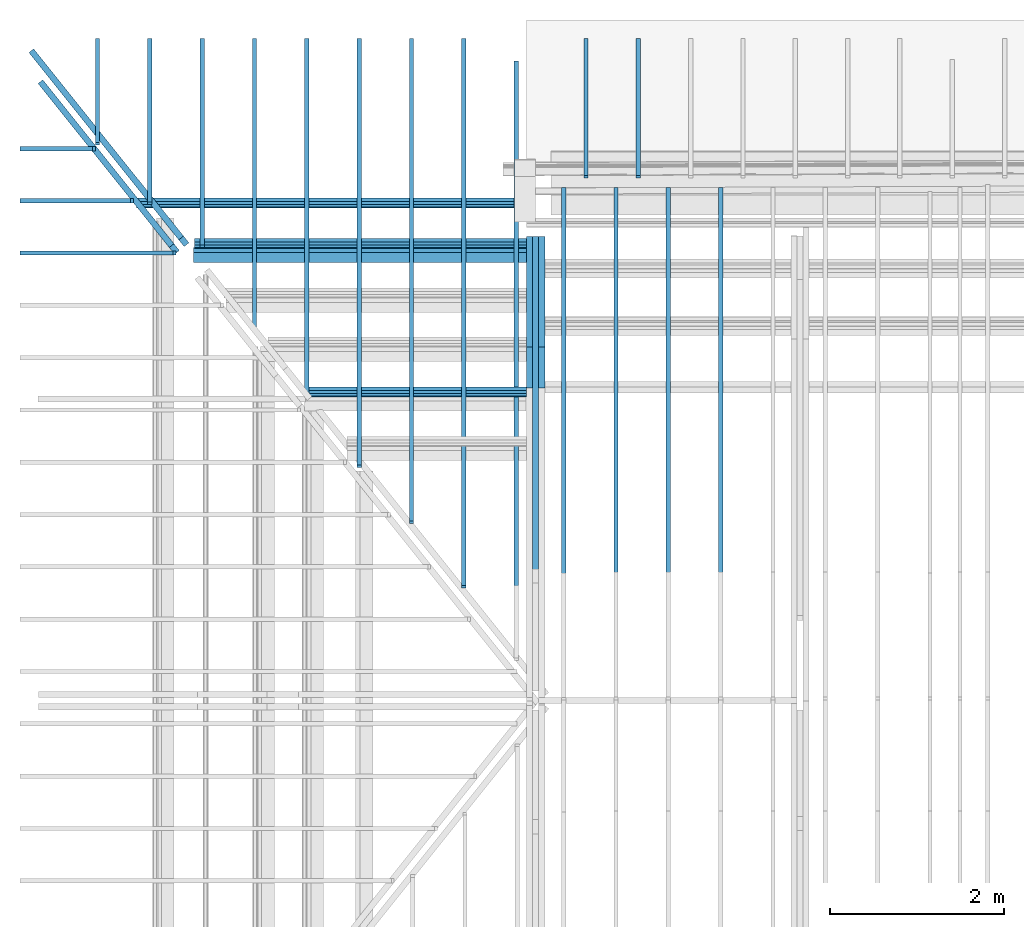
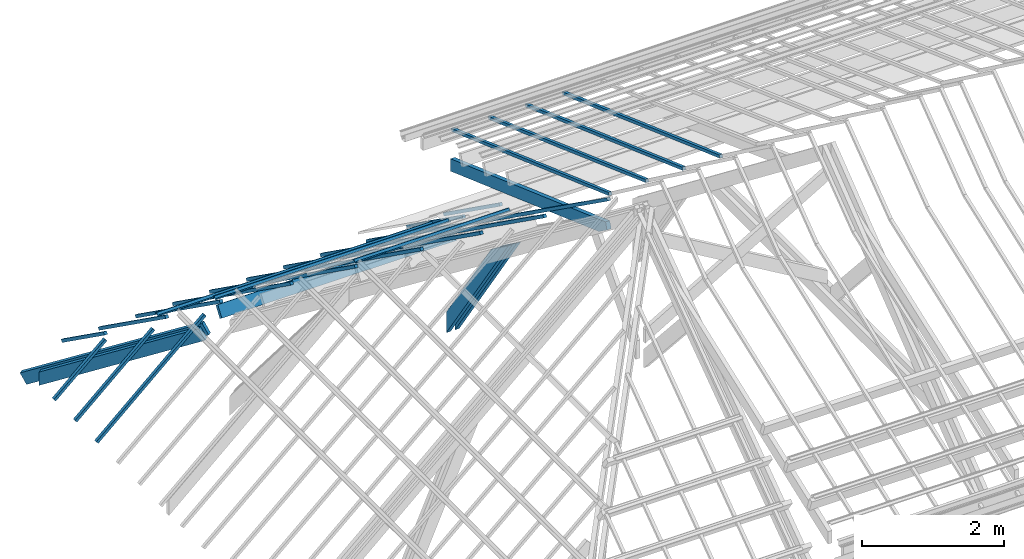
# One storey, part 7 of 18: 27 beams.
"""IFC2X3 building model written with IfcOpenShell, lengths in centimetres."""

from ifc_helpers import new_model, entity, si_unit, converted_unit, direction, frame, frame_2d, origin, origin_2d_with_axis, place, context, subcontext, project, spatial, polyline, circle_curve, parameter, trimmed, segment, composite_curve, rectangle, outline, extrude, clip, halfspace, material, type_object, element, save


model = new_model("IFC2X3")

# Units and contexts
model_context = context("Model", 3, precision=0.001, world=frame((0.0, 0.0, 13090.0)), true_north=direction((6.123233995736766e-17, 1.0)))
body_context = subcontext(model_context, "Body", "Model", "MODEL_VIEW")
ifc_project = project(units=[si_unit("LENGTHUNIT", "METRE", prefix="CENTI"), si_unit("AREAUNIT", "SQUARE_METRE"), si_unit("VOLUMEUNIT", "CUBIC_METRE"), converted_unit("PLANEANGLEUNIT", "DEGREE", entity("IfcPlaneAngleMeasure", 0.017453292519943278), si_unit("PLANEANGLEUNIT", "RADIAN"), dimensions=[0, 0, 0, 0, 0, 0, 0])], contexts=[model_context])

# Site, building, storey
site_placement = place(None, origin())
site = spatial("IfcSite", under=ifc_project, at=site_placement, Name="Default", CompositionType="ELEMENT")
building_placement = place(site_placement, origin())
building = spatial("IfcBuilding", under=site, at=building_placement, Name="e 39 logements et 22 maisons relais", CompositionType="ELEMENT")
storey_placement = place(building_placement, frame((0.0, 0.0, 610.0)))
storey = spatial("IfcBuildingStorey", under=building, at=storey_placement, Name="R+2", CompositionType="ELEMENT", Elevation=609.9999999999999)

# Beams
ifc_material_1 = material(Name="Bois - Bois de construction de dimensions courantes")
beam_type_1 = type_object("IfcBeamType", Name="Poutre - Bois de construction de dimensions courantes:70 200", PredefinedType="BEAM")
beam_1_placement = place(storey_placement, frame((-912.5294746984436, 619.9113580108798, 31.0085594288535), z_axis=(0.0, 0.3368150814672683, 0.9415708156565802), x_axis=(0.0, -0.9415708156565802, 0.3368150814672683)))
element("IfcBeam", 1, at=beam_1_placement, inside=storey, type_object=beam_type_1, material=ifc_material_1, Name="Poutre - Bois de construction de dimensions courantes:70 200", ObjectType="Poutre - Bois de construction de dimensions courantes:70 200", context=body_context, shape_type="Clipping", body=[
    clip(clip(extrude(rectangle(XDim=19.99999999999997, YDim=7.000000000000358, at=frame_2d((-1.6253665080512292e-13, 6.927791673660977e-14), x_axis=(0.0, 1.0))), frame((88.51981701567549, 0.0, -72.0), z_axis=(1.0, 0.0, 0.0), x_axis=(0.0, 1.0, 0.0)), (0.0, 0.0, 1.0), 469.8049506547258), halfspace(frame((390.38157469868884, 692.709732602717, -121.52256185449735), z_axis=(0.2710678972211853, 0.0, -0.9625602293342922), x_axis=(0.0, -1.0, 0.0)), False)), halfspace(frame((108.43711462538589, 692.7097326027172, -23.392228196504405), z_axis=(-0.946818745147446, 0.0, 0.3217674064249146), x_axis=(0.0, -1.0, 0.0)), False)),
])
beam_2_placement = place(storey_placement, frame((-905.5294746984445, 402.20860039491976, -64.2235240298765), z_axis=(1.0, 0.0, 0.0), x_axis=(0.0, -0.5644090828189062, 0.8254952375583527)))
element("IfcBeam", 2, at=beam_2_placement, inside=storey, type_object=beam_type_1, material=ifc_material_1, Name="Poutre - Bois de construction de dimensions courantes:70 200", ObjectType="Poutre - Bois de construction de dimensions courantes:70 200", context=body_context, shape_type="Clipping", body=[
    clip(clip(extrude(rectangle(XDim=20.0, YDim=7.000000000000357, at=frame_2d((-5.417888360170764e-14, 0.0), x_axis=(0.0, 1.0))), frame((-247.9649671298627, 30.0, 0.0), z_axis=(1.0, 0.0, 0.0), x_axis=(0.0, 0.0, -1.0)), (0.0, 0.0, 1.0), 307.99611149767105), halfspace(frame((-267.81505385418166, 53.57193685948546, -628.0494014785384), z_axis=(-0.5644090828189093, -0.8254952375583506, 0.0), x_axis=(0.0, 0.0, 1.0)), False)), halfspace(frame((165.38290847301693, 78.57563742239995, 628.0494014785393), z_axis=(0.34383550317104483, -0.9390298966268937, 0.0), x_axis=(0.0, 0.0, -1.0)), False)),
])
beam_3_placement = place(storey_placement, frame((-919.5294746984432, 402.20860039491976, -64.2235240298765), z_axis=(1.0, 0.0, 0.0), x_axis=(0.0, -0.5644090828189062, 0.8254952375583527)))
element("IfcBeam", 3, at=beam_3_placement, inside=storey, type_object=beam_type_1, material=ifc_material_1, Name="Poutre - Bois de construction de dimensions courantes:70 200", ObjectType="Poutre - Bois de construction de dimensions courantes:70 200", context=body_context, shape_type="Clipping", body=[
    clip(clip(extrude(rectangle(XDim=20.00000000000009, YDim=7.000000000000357, at=frame_2d((-5.417888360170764e-14, -6.039613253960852e-14), x_axis=(0.0, 1.0))), frame((-247.96496712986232, 30.0, 0.0), z_axis=(1.0, 0.0, 0.0), x_axis=(0.0, 0.0, -1.0)), (0.0, 0.0, 1.0), 307.9961114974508), halfspace(frame((-267.8150538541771, 53.571936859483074, -628.0494014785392), z_axis=(-0.5644090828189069, -0.8254952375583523, 0.0), x_axis=(0.0, 0.0, 1.0)), False)), halfspace(frame((165.38290847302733, 78.57563742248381, 628.0494014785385), z_axis=(0.3438355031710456, -0.9390298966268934, 0.0), x_axis=(0.0, 0.0, -1.0)), False)),
])
beam_4_placement = place(storey_placement, frame((-570.9302602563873, 493.8513256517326, -100.52820088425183), z_axis=(0.0, 0.0, 1.0), x_axis=(-1.0, 0.0, 0.0)))
element("IfcBeam", 4, at=beam_4_placement, inside=storey, type_object=beam_type_1, material=ifc_material_1, Name="Poutre - Bois de construction de dimensions courantes:70 200", ObjectType="Poutre - Bois de construction de dimensions courantes:70 200", context=body_context, shape_type="SweptSolid", body=[
    extrude(rectangle(XDim=19.999999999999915, YDim=7.000000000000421, at=frame_2d((6.039613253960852e-14, -8.659739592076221e-15), x_axis=(1.0, 0.0))), frame((352.09921444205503, 5.735764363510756, -8.191520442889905), z_axis=(1.0, 0.0, 0.0), x_axis=(0.0, -0.5735764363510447, 0.8191520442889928)), (0.0, 0.0, 1.0), 381.61947871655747),
])
beam_5_placement = place(storey_placement, frame((-1417.0565138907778, 607.7089887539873, -118.13387969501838), z_axis=(-0.30661229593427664, 0.383119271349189, 0.8713257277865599), x_axis=(0.5444394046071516, -0.680289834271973, 0.49070508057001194)))
element("IfcBeam", 5, at=beam_5_placement, inside=storey, type_object=beam_type_1, material=ifc_material_1, Name="Poutre - Bois de construction de dimensions courantes:70 200", ObjectType="Poutre - Bois de construction de dimensions courantes:70 200", context=body_context, shape_type="Clipping", body=[
    clip(extrude(rectangle(XDim=19.999999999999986, YDim=7.000000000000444, at=frame_2d((-5.950795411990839e-14, -1.1790568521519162e-13), x_axis=(1.0, 0.0))), frame((-173.65205872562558, 0.0, -92.0), z_axis=(1.0, 0.0, 0.0), x_axis=(0.0, 0.0, -1.0)), (0.0, 0.0, 1.0), 287.55314818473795), halfspace(frame((-130.7876422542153, 297.3510892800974, -25.109907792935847), z_axis=(-0.8734440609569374, 0.0, 0.4869245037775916), x_axis=(0.0, -1.0, 0.0)), False)),
])
beam_6_placement = place(storey_placement, frame((-1406.1259773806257, 616.4567525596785, -118.13387969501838), z_axis=(-0.3066122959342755, 0.3831192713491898, 0.8713257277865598), x_axis=(0.5444394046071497, -0.6802898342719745, 0.49070508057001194)))
element("IfcBeam", 6, at=beam_6_placement, inside=storey, type_object=beam_type_1, material=ifc_material_1, Name="Poutre - Bois de construction de dimensions courantes:70 200", ObjectType="Poutre - Bois de construction de dimensions courantes:70 200", context=body_context, shape_type="SweptSolid", body=[
    extrude(rectangle(XDim=20.000000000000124, YDim=7.000000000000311, at=frame_2d((-5.595524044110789e-14, -8.459899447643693e-14), x_axis=(1.0, 0.0))), frame((-201.77810725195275, 0.0, -92.0), z_axis=(1.0, 0.0, 0.0), x_axis=(0.0, 0.0, -1.0)), (0.0, 0.0, 1.0), 315.67919671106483),
])
ifc_material_2 = material(Name="neuf")
beam_type_2 = type_object("IfcBeamType", Name="panne z:panne z", PredefinedType="BEAM")
beam_7_placement = place(storey_placement, frame((-570.9302602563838, 332.5361445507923, 30.03878129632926), z_axis=(0.0, 0.0, 1.0), x_axis=(-1.0, 0.0, 0.0)))
element("IfcBeam", 7, at=beam_7_placement, inside=storey, type_object=beam_type_2, material=ifc_material_2, Name="panne z:panne z", ObjectType="panne z:panne z", context=body_context, shape_type="SweptSolid", body=[
    extrude(outline(composite_curve([segment(trimmed(circle_curve(frame_2d((-0.30000000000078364, 2.599999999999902), x_axis=(1.0, 0.0)), 0.3999999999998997), [parameter(0.0)], [parameter(90.00000000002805)], True, "PARAMETER"), True, "CONTINUOUS"), segment(polyline([(-0.30000000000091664, 3.0), (-4.6000000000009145, 3.0)]), True, "CONTINUOUS"), segment(trimmed(circle_curve(frame_2d((-4.600000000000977, 2.599999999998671), x_axis=(0.0, 1.0)), 0.39999999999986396), [parameter(0.0)], [parameter(90.00000000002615)], True, "PARAMETER"), True, "CONTINUOUS"), segment(polyline([(-5.0, 2.59999999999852), (-5.0, 1.0)]), True, "CONTINUOUS"), segment(polyline([(-5.0, 1.0), (-4.800000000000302, 1.0)]), True, "CONTINUOUS"), segment(polyline([(-4.8000000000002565, 1.0), (-4.800000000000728, 2.5999999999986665)]), True, "CONTINUOUS"), segment(trimmed(circle_curve(frame_2d((-4.600000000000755, 2.5999999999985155), x_axis=(-1.0, 0.0)), 0.20000000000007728), [parameter(270.00000000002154)], [parameter(0.0)], True, "PARAMETER"), False, "CONTINUOUS"), segment(polyline([(-4.600000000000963, 2.7999999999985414), (-0.3000000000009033, 2.7999999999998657)]), True, "CONTINUOUS"), segment(trimmed(circle_curve(frame_2d((-0.3000000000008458, 2.599999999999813), x_axis=(0.0, 1.0)), 0.2000000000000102), [parameter(270.00000000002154)], [parameter(0.0)], True, "PARAMETER"), False, "CONTINUOUS"), segment(polyline([(-0.10000000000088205, 2.5999999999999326), (-0.09999999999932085, -2.6000000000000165)]), True, "CONTINUOUS"), segment(trimmed(circle_curve(frame_2d((0.30000000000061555, -2.600000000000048), x_axis=(-1.0, 0.0)), 0.3999999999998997), [parameter(0.0)], [parameter(90.00000000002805)], True, "PARAMETER"), True, "CONTINUOUS"), segment(polyline([(0.30000000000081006, -3.0), (4.60000000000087, -3.0)]), True, "CONTINUOUS"), segment(trimmed(circle_curve(frame_2d((4.600000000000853, -2.599999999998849), x_axis=(0.0, -1.0)), 0.39999999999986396), [parameter(0.0)], [parameter(90.00000000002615)], True, "PARAMETER"), True, "CONTINUOUS"), segment(polyline([(5.0, -2.599999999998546), (5.0, -1.0)]), True, "CONTINUOUS"), segment(polyline([(5.0, -1.0), (4.800000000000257, -1.0)]), True, "CONTINUOUS"), segment(polyline([(4.800000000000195, -1.0), (4.800000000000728, -2.5999999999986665)]), True, "CONTINUOUS"), segment(trimmed(circle_curve(frame_2d((4.60000000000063, -2.5999999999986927), x_axis=(1.0, 0.0)), 0.20000000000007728), [parameter(270.00000000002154)], [parameter(0.0)], True, "PARAMETER"), False, "CONTINUOUS"), segment(polyline([(4.6000000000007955, -2.7999999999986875), (0.30000000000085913, -2.7999999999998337)]), True, "CONTINUOUS"), segment(trimmed(circle_curve(frame_2d((0.3000000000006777, -2.5999999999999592), x_axis=(0.0, -1.0)), 0.2000000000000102), [parameter(270.00000000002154)], [parameter(0.0)], True, "PARAMETER"), False, "CONTINUOUS"), segment(polyline([(0.1000000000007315, -2.599999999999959), (0.09999999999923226, 2.6000000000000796)]), True, "CONTINUOUS")], self_intersect=False)), frame((352.0992144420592, 1.5385808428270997, -2.1973211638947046), z_axis=(1.0, 0.0, 0.0), x_axis=(0.0, 0.8191520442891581, 0.5735764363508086)), (0.0, 0.0, 1.0), 251.85249584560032),
])
beam_8_placement = place(storey_placement, frame((-570.9302602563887, 502.96615289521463, -91.45077795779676), z_axis=(0.0, 0.0, 1.0), x_axis=(-1.0, 0.0, 0.0)))
element("IfcBeam", 8, at=beam_8_placement, inside=storey, type_object=beam_type_2, material=ifc_material_2, Name="panne z:panne z", ObjectType="panne z:panne z", context=body_context, shape_type="SweptSolid", body=[
    extrude(outline(composite_curve([segment(trimmed(circle_curve(frame_2d((-0.3000000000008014, 2.599999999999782), x_axis=(1.0, 0.0)), 0.39999999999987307), [parameter(0.0)], [parameter(90.00000000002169)], True, "PARAMETER"), True, "CONTINUOUS"), segment(polyline([(-0.30000000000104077, 3.0), (-4.600000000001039, 3.0)]), True, "CONTINUOUS"), segment(trimmed(circle_curve(frame_2d((-4.60000000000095, 2.5999999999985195), x_axis=(0.0, 1.0)), 0.399999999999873), [parameter(0.0)], [parameter(90.00000000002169)], True, "PARAMETER"), True, "CONTINUOUS"), segment(polyline([(-5.0, 2.599999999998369), (-5.0, 1.0)]), True, "CONTINUOUS"), segment(polyline([(-5.0, 1.0), (-4.800000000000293, 1.0)]), True, "CONTINUOUS"), segment(polyline([(-4.800000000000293, 1.0), (-4.800000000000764, 2.5999999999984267)]), True, "CONTINUOUS"), segment(trimmed(circle_curve(frame_2d((-4.600000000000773, 2.599999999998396), x_axis=(-1.0, 0.0)), 0.20000000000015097), [parameter(270.0000000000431)], [parameter(0.0)], True, "PARAMETER"), False, "CONTINUOUS"), segment(polyline([(-4.600000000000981, 2.7999999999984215), (-0.30000000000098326, 2.799999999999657)]), True, "CONTINUOUS"), segment(trimmed(circle_curve(frame_2d((-0.30000000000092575, 2.5999999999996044), x_axis=(0.0, 1.0)), 0.20000000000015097), [parameter(270.0000000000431)], [parameter(0.0)], True, "PARAMETER"), False, "CONTINUOUS"), segment(polyline([(-0.10000000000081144, 2.599999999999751), (-0.09999999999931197, -2.6000000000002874)]), True, "CONTINUOUS"), segment(trimmed(circle_curve(frame_2d((0.30000000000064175, -2.6000000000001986), x_axis=(-1.0, 0.0)), 0.39999999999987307), [parameter(0.0)], [parameter(90.00000000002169)], True, "PARAMETER"), True, "CONTINUOUS"), segment(polyline([(0.3000000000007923, -3.0), (4.600000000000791, -3.0)]), True, "CONTINUOUS"), segment(trimmed(circle_curve(frame_2d((4.600000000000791, -2.5999999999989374), x_axis=(0.0, -1.0)), 0.399999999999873), [parameter(0.0)], [parameter(90.00000000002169)], True, "PARAMETER"), True, "CONTINUOUS"), segment(polyline([(5.0, -2.5999999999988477), (5.0, -1.0)]), True, "CONTINUOUS"), segment(polyline([(5.0, -1.0), (4.800000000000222, -1.0)]), True, "CONTINUOUS"), segment(polyline([(4.800000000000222, -1.0), (4.800000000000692, -2.599999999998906)]), True, "CONTINUOUS"), segment(trimmed(circle_curve(frame_2d((4.600000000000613, -2.599999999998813), x_axis=(1.0, 0.0)), 0.20000000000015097), [parameter(270.0000000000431)], [parameter(0.0)], True, "PARAMETER"), False, "CONTINUOUS"), segment(polyline([(4.600000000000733, -2.7999999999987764), (0.3000000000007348, -2.8000000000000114)]), True, "CONTINUOUS"), segment(trimmed(circle_curve(frame_2d((0.3000000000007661, -2.600000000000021), x_axis=(0.0, -1.0)), 0.20000000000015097), [parameter(270.0000000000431)], [parameter(0.0)], True, "PARAMETER"), False, "CONTINUOUS"), segment(polyline([(0.10000000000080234, -2.600000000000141), (0.09999999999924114, 2.5999999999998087)]), True, "CONTINUOUS")], self_intersect=False)), frame((352.0992144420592, 1.5385808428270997, -2.197321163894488), z_axis=(1.0, 0.0, 0.0), x_axis=(0.0, 0.8191520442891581, 0.5735764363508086)), (0.0, 0.0, 1.0), 380.3875831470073),
])
beam_9_placement = place(storey_placement, frame((-570.9302602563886, 549.1363854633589, -124.36282942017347), z_axis=(0.0, 0.0, 1.0), x_axis=(-1.0, 0.0, 0.0)))
element("IfcBeam", 9, at=beam_9_placement, inside=storey, type_object=beam_type_2, material=ifc_material_2, Name="panne z:panne z", ObjectType="panne z:panne z", context=body_context, shape_type="SweptSolid", body=[
    extrude(outline(composite_curve([segment(trimmed(circle_curve(frame_2d((-0.3000000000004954, 2.6000000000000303), x_axis=(1.0, 0.0)), 0.399999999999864), [parameter(0.0)], [parameter(90.00000000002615)], True, "PARAMETER"), True, "CONTINUOUS"), segment(polyline([(-0.3000000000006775, 3.0), (-4.6000000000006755, 3.0)]), True, "CONTINUOUS"), segment(trimmed(circle_curve(frame_2d((-4.600000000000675, 2.5999999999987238), x_axis=(0.0, 1.0)), 0.3999999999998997), [parameter(0.0)], [parameter(90.00000000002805)], True, "PARAMETER"), True, "CONTINUOUS"), segment(polyline([(-5.0, 2.599999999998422), (-5.0, 1.0)]), True, "CONTINUOUS"), segment(polyline([(-5.0, 1.0), (-4.799999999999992, 1.0)]), True, "CONTINUOUS"), segment(polyline([(-4.799999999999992, 1.0), (-4.800000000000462, 2.59999999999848)]), True, "CONTINUOUS"), segment(trimmed(circle_curve(frame_2d((-4.600000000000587, 2.5999999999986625), x_axis=(-1.0, 0.0)), 0.20000000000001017), [parameter(270.00000000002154)], [parameter(0.0)], True, "PARAMETER"), False, "CONTINUOUS"), segment(polyline([(-4.600000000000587, 2.7999999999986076), (-0.30000000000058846, 2.799999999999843)]), True, "CONTINUOUS"), segment(trimmed(circle_curve(frame_2d((-0.30000000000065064, 2.5999999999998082), x_axis=(0.0, 1.0)), 0.20000000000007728), [parameter(270.00000000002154)], [parameter(0.0)], True, "PARAMETER"), False, "CONTINUOUS"), segment(polyline([(-0.10000000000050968, 2.599999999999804), (-0.09999999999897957, -2.60000000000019)]), True, "CONTINUOUS"), segment(trimmed(circle_curve(frame_2d((0.3000000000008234, -2.600000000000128), x_axis=(-1.0, 0.0)), 0.399999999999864), [parameter(0.0)], [parameter(90.00000000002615)], True, "PARAMETER"), True, "CONTINUOUS"), segment(polyline([(0.3000000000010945, -3.0), (4.600000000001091, -3.0)]), True, "CONTINUOUS"), segment(trimmed(circle_curve(frame_2d((4.600000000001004, -2.599999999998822), x_axis=(0.0, -1.0)), 0.3999999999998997), [parameter(0.0)], [parameter(90.00000000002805)], True, "PARAMETER"), True, "CONTINUOUS"), segment(polyline([(5.0, -2.5999999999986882), (5.0, -1.0)]), True, "CONTINUOUS"), segment(polyline([(5.0, -1.0), (4.800000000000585, -1.0)]), True, "CONTINUOUS"), segment(polyline([(4.800000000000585, -1.0), (4.800000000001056, -2.599999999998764)]), True, "CONTINUOUS"), segment(trimmed(circle_curve(frame_2d((4.600000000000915, -2.5999999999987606), x_axis=(1.0, 0.0)), 0.20000000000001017), [parameter(270.00000000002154)], [parameter(0.0)], True, "PARAMETER"), False, "CONTINUOUS"), segment(polyline([(4.600000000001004, -2.7999999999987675), (0.30000000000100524, -2.8000000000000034)]), True, "CONTINUOUS"), segment(trimmed(circle_curve(frame_2d((0.3000000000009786, -2.599999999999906), x_axis=(0.0, -1.0)), 0.20000000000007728), [parameter(270.00000000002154)], [parameter(0.0)], True, "PARAMETER"), False, "CONTINUOUS"), segment(polyline([(0.1000000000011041, -2.600000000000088), (0.09999999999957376, 2.599999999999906)]), True, "CONTINUOUS")], self_intersect=False)), frame((352.0992144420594, 1.5385808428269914, -2.197321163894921), z_axis=(1.0, 0.0, 0.0), x_axis=(0.0, 0.8191520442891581, 0.5735764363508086)), (0.0, 0.0, 1.0), 447.40959199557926),
])
beam_type_3 = type_object("IfcBeamType", Name="Poutre - Bois de construction de dimensions courantes:50 50", PredefinedType="BEAM")
beam_10_placement = place(storey_placement, frame((-700.3172162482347, 636.363931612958, 59.23829359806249), z_axis=(0.0, 0.33913930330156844, 0.9407361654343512), x_axis=(0.0, -0.9407361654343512, 0.33913930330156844)))
element("IfcBeam", 10, at=beam_10_placement, inside=storey, type_object=beam_type_3, material=ifc_material_1, Name="Poutre - Bois de construction de dimensions courantes:50 50", ObjectType="Poutre - Bois de construction de dimensions courantes:50 50", context=body_context, shape_type="SweptSolid", body=[
    extrude(rectangle(XDim=4.999999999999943, YDim=5.000000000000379, at=frame_2d((5.129230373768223e-14, 5.417888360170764e-14), x_axis=(1.0, 0.0))), frame((50.61646000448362, 0.0, -71.5000000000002), z_axis=(1.0, 0.0, 0.0), x_axis=(0.0, 0.0, -1.0)), (0.0, 0.0, 1.0), 470.3229988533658),
])
beam_11_placement = place(storey_placement, frame((-760.3172162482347, 636.3639316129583, 59.23829359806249), z_axis=(0.0, 0.33913930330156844, 0.9407361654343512), x_axis=(0.0, -0.9407361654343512, 0.33913930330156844)))
element("IfcBeam", 11, at=beam_11_placement, inside=storey, type_object=beam_type_3, material=ifc_material_1, Name="Poutre - Bois de construction de dimensions courantes:50 50", ObjectType="Poutre - Bois de construction de dimensions courantes:50 50", context=body_context, shape_type="SweptSolid", body=[
    extrude(rectangle(XDim=4.999999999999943, YDim=5.000000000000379, at=frame_2d((5.129230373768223e-14, -5.417888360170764e-14), x_axis=(1.0, 0.0))), frame((50.61646000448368, 0.0, -71.5000000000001), z_axis=(1.0, 0.0, 0.0), x_axis=(0.0, 0.0, -1.0)), (0.0, 0.0, 1.0), 470.3229988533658),
])
beam_12_placement = place(storey_placement, frame((-820.3172162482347, 636.3639316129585, 59.23829359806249), z_axis=(0.0, 0.33913930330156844, 0.9407361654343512), x_axis=(0.0, -0.9407361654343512, 0.33913930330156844)))
element("IfcBeam", 12, at=beam_12_placement, inside=storey, type_object=beam_type_3, material=ifc_material_1, Name="Poutre - Bois de construction de dimensions courantes:50 50", ObjectType="Poutre - Bois de construction de dimensions courantes:50 50", context=body_context, shape_type="SweptSolid", body=[
    extrude(rectangle(XDim=4.999999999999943, YDim=5.000000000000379, at=frame_2d((5.129230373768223e-14, 5.417888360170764e-14), x_axis=(1.0, 0.0))), frame((50.61646000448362, 0.0, -71.49999999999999), z_axis=(1.0, 0.0, 0.0), x_axis=(0.0, 0.0, -1.0)), (0.0, 0.0, 1.0), 470.3229988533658),
])
beam_13_placement = place(storey_placement, frame((-880.3172162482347, 636.2309183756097, 59.43623293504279), z_axis=(0.0, 0.336480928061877, 0.9416902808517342), x_axis=(0.0, -0.9416902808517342, 0.336480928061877)))
element("IfcBeam", 13, at=beam_13_placement, inside=storey, type_object=beam_type_3, material=ifc_material_1, Name="Poutre - Bois de construction de dimensions courantes:50 50", ObjectType="Poutre - Bois de construction de dimensions courantes:50 50", context=body_context, shape_type="SweptSolid", body=[
    extrude(rectangle(XDim=4.99999999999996, YDim=5.000000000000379, at=frame_2d((0.0, -5.417888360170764e-14), x_axis=(1.0, 0.0))), frame((50.61646000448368, 0.0, -71.5000000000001), z_axis=(1.0, 0.0, 0.0), x_axis=(0.0, 0.0, -1.0)), (0.0, 0.0, 1.0), 470.3229988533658),
])
beam_14_placement = place(storey_placement, frame((-994.8819705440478, 595.7154312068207, -82.26436383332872), z_axis=(0.0, 0.5804591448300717, 0.814289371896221), x_axis=(0.0, -0.814289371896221, 0.5804591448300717)))
element("IfcBeam", 14, at=beam_14_placement, inside=storey, type_object=beam_type_3, material=ifc_material_1, Name="Poutre - Bois de construction de dimensions courantes:50 50", ObjectType="Poutre - Bois de construction de dimensions courantes:50 50", context=body_context, shape_type="SweptSolid", body=[
    extrude(rectangle(XDim=4.999999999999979, YDim=5.000000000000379, at=frame_2d((-2.19824158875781e-14, 0.0), x_axis=(1.0, 0.0))), frame((-222.18364305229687, 0.0, -71.50000000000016), z_axis=(1.0, 0.0, 0.0), x_axis=(0.0, 0.0, -1.0)), (0.0, 0.0, 1.0), 770.7267689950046),
])
beam_15_placement = place(storey_placement, frame((-1054.8819705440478, 595.7154312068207, -82.26436383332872), z_axis=(0.0, 0.5804591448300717, 0.814289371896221), x_axis=(0.0, -0.814289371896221, 0.5804591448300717)))
element("IfcBeam", 15, at=beam_15_placement, inside=storey, type_object=beam_type_3, material=ifc_material_1, Name="Poutre - Bois de construction de dimensions courantes:50 50", ObjectType="Poutre - Bois de construction de dimensions courantes:50 50", context=body_context, shape_type="SweptSolid", body=[
    extrude(rectangle(XDim=5.000000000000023, YDim=5.000000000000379, at=frame_2d((0.0, 1.0835776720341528e-13), x_axis=(1.0, 0.0))), frame((-222.1836430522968, 0.0, -71.50000000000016), z_axis=(1.0, 0.0, 0.0), x_axis=(0.0, 0.0, -1.0)), (0.0, 0.0, 1.0), 679.7802642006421),
])
beam_16_placement = place(storey_placement, frame((-1114.8819705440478, 595.7154312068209, -82.26436383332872), z_axis=(0.0, 0.5804591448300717, 0.814289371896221), x_axis=(0.0, -0.814289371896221, 0.5804591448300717)))
element("IfcBeam", 16, at=beam_16_placement, inside=storey, type_object=beam_type_3, material=ifc_material_1, Name="Poutre - Bois de construction de dimensions courantes:50 50", ObjectType="Poutre - Bois de construction de dimensions courantes:50 50", context=body_context, shape_type="SweptSolid", body=[
    extrude(rectangle(XDim=5.000000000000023, YDim=5.000000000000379, at=frame_2d((0.0, 2.1649348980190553e-13), x_axis=(1.0, 0.0))), frame((-222.18364305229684, 0.0, -71.50000000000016), z_axis=(1.0, 0.0, 0.0), x_axis=(0.0, 0.0, -1.0)), (0.0, 0.0, 1.0), 600.9751981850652),
])
beam_17_placement = place(storey_placement, frame((-1174.8819705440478, 595.715431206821, -82.26436383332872), z_axis=(0.0, 0.5804591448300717, 0.814289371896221), x_axis=(0.0, -0.814289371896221, 0.5804591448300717)))
element("IfcBeam", 17, at=beam_17_placement, inside=storey, type_object=beam_type_3, material=ifc_material_1, Name="Poutre - Bois de construction de dimensions courantes:50 50", ObjectType="Poutre - Bois de construction de dimensions courantes:50 50", context=body_context, shape_type="SweptSolid", body=[
    extrude(rectangle(XDim=4.999999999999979, YDim=5.000000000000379, at=frame_2d((2.19824158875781e-14, 1.0835776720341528e-13), x_axis=(1.0, 0.0))), frame((-222.18364305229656, 0.0, -71.50000000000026), z_axis=(1.0, 0.0, 0.0), x_axis=(0.0, 0.0, -1.0)), (0.0, 0.0, 1.0), 501.9262439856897),
])
beam_18_placement = place(storey_placement, frame((-1234.8819705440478, 595.715431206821, -82.26436383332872), z_axis=(0.0, 0.5804591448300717, 0.814289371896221), x_axis=(0.0, -0.814289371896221, 0.5804591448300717)))
element("IfcBeam", 18, at=beam_18_placement, inside=storey, type_object=beam_type_3, material=ifc_material_1, Name="Poutre - Bois de construction de dimensions courantes:50 50", ObjectType="Poutre - Bois de construction de dimensions courantes:50 50", context=body_context, shape_type="SweptSolid", body=[
    extrude(rectangle(XDim=5.000000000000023, YDim=5.0000000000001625, at=origin_2d_with_axis()), frame((-222.18364305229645, 0.0, -71.50000000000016), z_axis=(1.0, 0.0, 0.0), x_axis=(0.0, 0.0, -1.0)), (0.0, 0.0, 1.0), 406.790329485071),
])
beam_19_placement = place(storey_placement, frame((-1294.8819705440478, 595.7154312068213, -82.26436383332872), z_axis=(0.0, 0.5804591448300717, 0.814289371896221), x_axis=(0.0, -0.814289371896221, 0.5804591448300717)))
element("IfcBeam", 19, at=beam_19_placement, inside=storey, type_object=beam_type_3, material=ifc_material_1, Name="Poutre - Bois de construction de dimensions courantes:50 50", ObjectType="Poutre - Bois de construction de dimensions courantes:50 50", context=body_context, shape_type="SweptSolid", body=[
    extrude(rectangle(XDim=5.000000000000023, YDim=5.000000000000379, at=frame_2d((0.0, 3.248512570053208e-13), x_axis=(1.0, 0.0))), frame((-222.18364305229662, 0.0, -71.5000000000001), z_axis=(1.0, 0.0, 0.0), x_axis=(0.0, 0.0, -1.0)), (0.0, 0.0, 1.0), 291.0265436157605),
])
beam_20_placement = place(storey_placement, frame((-1354.8819705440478, 595.7154312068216, -82.26436383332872), z_axis=(0.0, 0.5804591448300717, 0.814289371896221), x_axis=(0.0, -0.814289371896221, 0.5804591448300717)))
element("IfcBeam", 20, at=beam_20_placement, inside=storey, type_object=beam_type_3, material=ifc_material_1, Name="Poutre - Bois de construction de dimensions courantes:50 50", ObjectType="Poutre - Bois de construction de dimensions courantes:50 50", context=body_context, shape_type="SweptSolid", body=[
    extrude(rectangle(XDim=4.999999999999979, YDim=5.0000000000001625, at=frame_2d((0.0, 2.1671553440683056e-13), x_axis=(1.0, 0.0))), frame((-222.18364305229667, 0.0, -71.5000000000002), z_axis=(1.0, 0.0, 0.0), x_axis=(0.0, 0.0, -1.0)), (0.0, 0.0, 1.0), 230.6593541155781),
])
beam_21_placement = place(storey_placement, frame((-1414.8819705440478, 595.7154312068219, -82.26436383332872), z_axis=(0.0, 0.5804591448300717, 0.814289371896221), x_axis=(0.0, -0.814289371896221, 0.5804591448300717)))
element("IfcBeam", 21, at=beam_21_placement, inside=storey, type_object=beam_type_3, material=ifc_material_1, Name="Poutre - Bois de construction de dimensions courantes:50 50", ObjectType="Poutre - Bois de construction de dimensions courantes:50 50", context=body_context, shape_type="SweptSolid", body=[
    extrude(rectangle(XDim=5.000000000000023, YDim=5.000000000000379, at=frame_2d((0.0, 1.0835776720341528e-13), x_axis=(1.0, 0.0))), frame((-222.18364305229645, 0.0, -71.5000000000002), z_axis=(1.0, 0.0, 0.0), x_axis=(0.0, 0.0, -1.0)), (0.0, 0.0, 1.0), 146.53137649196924),
])
beam_22_placement = place(storey_placement, frame((-854.7819705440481, 595.7154312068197, -82.26436383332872), z_axis=(0.0, 0.5804591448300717, 0.814289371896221), x_axis=(0.0, -0.814289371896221, 0.5804591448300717)))
element("IfcBeam", 22, at=beam_22_placement, inside=storey, type_object=beam_type_3, material=ifc_material_1, Name="Poutre - Bois de construction de dimensions courantes:50 50", ObjectType="Poutre - Bois de construction de dimensions courantes:50 50", context=body_context, shape_type="SweptSolid", body=[
    extrude(rectangle(XDim=5.000000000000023, YDim=5.000000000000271, at=frame_2d((0.0, -1.0835776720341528e-13), x_axis=(1.0, 0.0))), frame((-222.18364305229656, 0.0, -71.50000000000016), z_axis=(1.0, 0.0, 0.0), x_axis=(0.0, 0.0, -1.0)), (0.0, 0.0, 1.0), 193.3699514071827),
])
beam_23_placement = place(storey_placement, frame((-794.7819705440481, 595.7154312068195, -82.26436383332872), z_axis=(0.0, 0.5804591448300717, 0.814289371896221), x_axis=(0.0, -0.814289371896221, 0.5804591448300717)))
element("IfcBeam", 23, at=beam_23_placement, inside=storey, type_object=beam_type_3, material=ifc_material_1, Name="Poutre - Bois de construction de dimensions courantes:50 50", ObjectType="Poutre - Bois de construction de dimensions courantes:50 50", context=body_context, shape_type="SweptSolid", body=[
    extrude(rectangle(XDim=5.000000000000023, YDim=5.000000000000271, at=frame_2d((0.0, -1.0835776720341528e-13), x_axis=(1.0, 0.0))), frame((-222.18364305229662, 0.0, -71.50000000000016), z_axis=(1.0, 0.0, 0.0), x_axis=(0.0, 0.0, -1.0)), (0.0, 0.0, 1.0), 193.3699514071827),
])
beam_24_placement = place(storey_placement, frame((-1389.908594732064, 490.4020968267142, -50.6248321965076), z_axis=(-0.6673418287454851, 0.0, 0.7447515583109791), x_axis=(0.7447515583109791, 0.0, 0.6673418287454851)))
element("IfcBeam", 24, at=beam_24_placement, inside=storey, type_object=beam_type_3, material=ifc_material_1, Name="Poutre - Bois de construction de dimensions courantes:50 50", ObjectType="Poutre - Bois de construction de dimensions courantes:50 50", context=body_context, shape_type="SweptSolid", body=[
    extrude(rectangle(XDim=4.999999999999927, YDim=5.000000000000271, at=frame_2d((8.060219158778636e-14, 5.417888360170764e-14), x_axis=(1.0, 0.0))), frame((-226.35367557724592, 0.0, -84.50000000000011), z_axis=(1.0, 0.0, 0.0), x_axis=(0.0, 0.0, -1.0)), (0.0, 0.0, 1.0), 235.63039932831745),
])
beam_25_placement = place(storey_placement, frame((-1389.908594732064, 550.4020968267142, -50.6248321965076), z_axis=(-0.6673418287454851, 0.0, 0.7447515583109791), x_axis=(0.7447515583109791, 0.0, 0.6673418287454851)))
element("IfcBeam", 25, at=beam_25_placement, inside=storey, type_object=beam_type_3, material=ifc_material_1, Name="Poutre - Bois de construction de dimensions courantes:50 50", ObjectType="Poutre - Bois de construction de dimensions courantes:50 50", context=body_context, shape_type="SweptSolid", body=[
    extrude(rectangle(XDim=4.999999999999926, YDim=5.000000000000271, at=frame_2d((0.0, -5.417888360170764e-14), x_axis=(1.0, 0.0))), frame((-226.35367557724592, 0.0, -84.50000000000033), z_axis=(1.0, 0.0, 0.0), x_axis=(0.0, 0.0, -1.0)), (0.0, 0.0, 1.0), 170.1118772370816),
])
beam_26_placement = place(storey_placement, frame((-1389.908594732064, 610.0020968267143, -50.6248321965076), z_axis=(-0.6673418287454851, 0.0, 0.7447515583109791), x_axis=(0.7447515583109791, 0.0, 0.6673418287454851)))
element("IfcBeam", 26, at=beam_26_placement, inside=storey, type_object=beam_type_3, material=ifc_material_1, Name="Poutre - Bois de construction de dimensions courantes:50 50", ObjectType="Poutre - Bois de construction de dimensions courantes:50 50", context=body_context, shape_type="SweptSolid", body=[
    extrude(rectangle(XDim=4.999999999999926, YDim=5.000000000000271, at=frame_2d((-2.020605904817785e-14, 5.417888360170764e-14), x_axis=(1.0, 0.0))), frame((-226.35367557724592, 0.0, -84.50000000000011), z_axis=(1.0, 0.0, 0.0), x_axis=(0.0, 0.0, -1.0)), (0.0, 0.0, 1.0), 111.70254391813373),
])
beam_27_placement = place(storey_placement, frame((-934.8819705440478, 595.7154312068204, -82.26436383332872), z_axis=(0.0, 0.5804591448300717, 0.814289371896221), x_axis=(0.0, -0.814289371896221, 0.5804591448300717)))
element("IfcBeam", 27, at=beam_27_placement, inside=storey, type_object=beam_type_3, material=ifc_material_1, Name="Poutre - Bois de construction de dimensions courantes:50 50", ObjectType="Poutre - Bois de construction de dimensions courantes:50 50", context=body_context, shape_type="Clipping", body=[
    clip(extrude(rectangle(XDim=5.0000000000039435, YDim=5.000000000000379, at=frame_2d((-1.0822454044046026e-12, -5.417888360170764e-14), x_axis=(1.0, 0.0))), frame((-193.74417159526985, 0.0, -71.50000000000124), z_axis=(1.0, 0.0, 0.0), x_axis=(0.0, 0.0, -1.0)), (0.0, 0.0, 1.0), 835.651473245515), halfspace(frame((-188.9509105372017, 835.8155457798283, -67.27583763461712), z_axis=(-0.814289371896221, 0.0, 0.5804591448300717), x_axis=(0.0, -1.0, 0.0)), False)),
])

save(model, "model.ifc")
